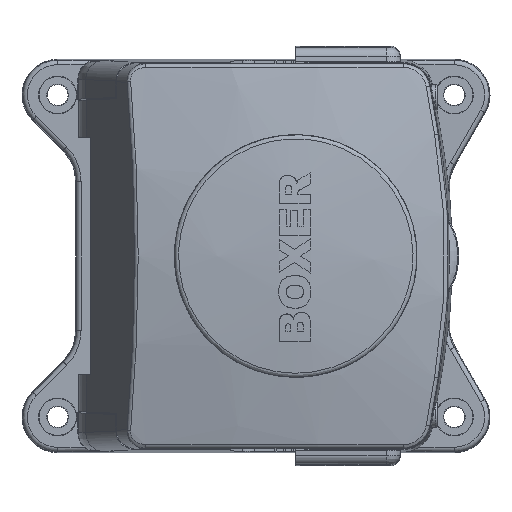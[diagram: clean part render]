
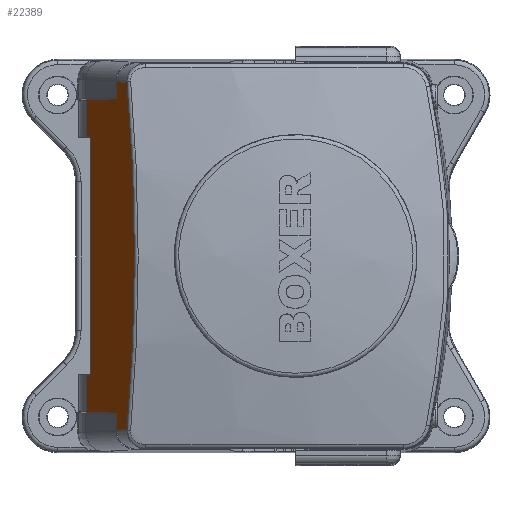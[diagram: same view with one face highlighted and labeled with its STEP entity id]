
A CAD part, left-side view. The second image highlights one B-rep face of the part: STEP entity #22389.
In plain terms, the highlighted planar face has unit normal (-0.391, 0.92, 0).
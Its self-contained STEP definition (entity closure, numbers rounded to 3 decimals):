
#1494 = DIRECTION ( 'NONE',  ( 0.92, 0.391, 0. ) ) ;
#2241 = EDGE_CURVE ( 'NONE', #4768, #6985, #79945, .T. ) ;
#2742 = CARTESIAN_POINT ( 'NONE',  ( 6.357, 44.904, 25.5 ) ) ;
#2970 = VERTEX_POINT ( 'NONE', #71660 ) ;
#2981 = LINE ( 'NONE', #49398, #55907 ) ;
#3191 = EDGE_CURVE ( 'NONE', #2970, #8357, #63870, .T. ) ;
#4282 = CARTESIAN_POINT ( 'NONE',  ( 6.357, 44.904, -33.439 ) ) ;
#4768 = VERTEX_POINT ( 'NONE', #42345 ) ;
#4786 = CARTESIAN_POINT ( 'NONE',  ( -8.939, 38.398, -33.706 ) ) ;
#4949 = EDGE_LOOP ( 'NONE', ( #69600, #66788, #13513, #34369, #17460, #9901, #22074, #58926, #57290, #18475, #63132, #65567 ) ) ;
#6328 = VECTOR ( 'NONE', #39302, 1000. ) ;
#6985 = VERTEX_POINT ( 'NONE', #82556 ) ;
#7312 = LINE ( 'NONE', #35479, #42877 ) ;
#8357 = VERTEX_POINT ( 'NONE', #32264 ) ;
#8372 = VERTEX_POINT ( 'NONE', #58163 ) ;
#8923 = CARTESIAN_POINT ( 'NONE',  ( 3.892, 43.856, -29.788 ) ) ;
#9901 = ORIENTED_EDGE ( 'NONE', *, *, #2241, .F. ) ;
#13186 = EDGE_CURVE ( 'NONE', #53746, #42174, #78942, .T. ) ;
#13513 = ORIENTED_EDGE ( 'NONE', *, *, #51220, .F. ) ;
#14410 = DIRECTION ( 'NONE',  ( 0.391, -0.92, 0. ) ) ;
#16340 = VECTOR ( 'NONE', #29532, 1000. ) ;
#17460 = ORIENTED_EDGE ( 'NONE', *, *, #76230, .T. ) ;
#18279 = DIRECTION ( 'NONE',  ( 0.92, 0.391, -0.016 ) ) ;
#18475 = ORIENTED_EDGE ( 'NONE', *, *, #81552, .F. ) ;
#19059 = CARTESIAN_POINT ( 'NONE',  ( -8.85, 38.436, 33.704 ) ) ;
#19159 = VECTOR ( 'NONE', #39434, 1000. ) ;
#20264 = LINE ( 'NONE', #68097, #46301 ) ;
#20512 = CARTESIAN_POINT ( 'NONE',  ( 6.357, 44.904, -25.5 ) ) ;
#20988 = VERTEX_POINT ( 'NONE', #52209 ) ;
#22074 = ORIENTED_EDGE ( 'NONE', *, *, #66041, .T. ) ;
#22389 = ADVANCED_FACE ( 'NONE', ( #75627 ), #42126, .F. ) ;
#23706 = VECTOR ( 'NONE', #68527, 1000. ) ;
#25020 = CARTESIAN_POINT ( 'NONE',  ( -8.791, 38.461, -37.328 ) ) ;
#27702 = LINE ( 'NONE', #54891, #58451 ) ;
#29532 = DIRECTION ( 'NONE',  ( 0., 0., 1. ) ) ;
#32264 = CARTESIAN_POINT ( 'NONE',  ( 3.892, 43.856, 25.5 ) ) ;
#32736 = CARTESIAN_POINT ( 'NONE',  ( 6.357, 44.904, -25.5 ) ) ;
#34182 = DIRECTION ( 'NONE',  ( 0., 0., 1. ) ) ;
#34369 = ORIENTED_EDGE ( 'NONE', *, *, #13186, .T. ) ;
#34609 = EDGE_CURVE ( 'NONE', #20988, #83112, #73796, .T. ) ;
#34846 = DIRECTION ( 'NONE',  ( 0.92, 0.391, 0.016 ) ) ;
#34959 = VECTOR ( 'NONE', #73085, 1000. ) ;
#35479 = CARTESIAN_POINT ( 'NONE',  ( -8.939, 38.398, 33.706 ) ) ;
#39302 = DIRECTION ( 'NONE',  ( -0.92, -0.391, 0. ) ) ;
#39434 = DIRECTION ( 'NONE',  ( 0., 0., -1. ) ) ;
#39562 = CARTESIAN_POINT ( 'NONE',  ( -14.251, 36.139, 37.232 ) ) ;
#40337 = CARTESIAN_POINT ( 'NONE',  ( -8.85, 38.436, -33.704 ) ) ;
#40859 = AXIS2_PLACEMENT_3D ( 'NONE', #70239, #14410, #1494 ) ;
#41283 = CARTESIAN_POINT ( 'NONE',  ( -8.85, 38.436, -33.3 ) ) ;
#42043 = EDGE_CURVE ( 'NONE', #56882, #8372, #2981, .T. ) ;
#42126 = PLANE ( 'NONE',  #40859 ) ;
#42174 = VERTEX_POINT ( 'NONE', #40337 ) ;
#42345 = CARTESIAN_POINT ( 'NONE',  ( -14.251, 36.139, -37.232 ) ) ;
#42877 = VECTOR ( 'NONE', #62690, 1000. ) ;
#46301 = VECTOR ( 'NONE', #34182, 1000. ) ;
#48363 = LINE ( 'NONE', #41283, #23706 ) ;
#49398 = CARTESIAN_POINT ( 'NONE',  ( -8.85, 38.436, 33.3 ) ) ;
#51220 = EDGE_CURVE ( 'NONE', #53746, #80965, #20264, .T. ) ;
#51762 = LINE ( 'NONE', #73660, #6328 ) ;
#52209 = CARTESIAN_POINT ( 'NONE',  ( 6.357, 44.904, 33.439 ) ) ;
#53746 = VERTEX_POINT ( 'NONE', #4282 ) ;
#54891 = CARTESIAN_POINT ( 'NONE',  ( -8.791, 38.461, 37.328 ) ) ;
#55907 = VECTOR ( 'NONE', #59535, 1000. ) ;
#56662 = DIRECTION ( 'NONE',  ( -0.391, 0.92, 0. ) ) ;
#56882 = VERTEX_POINT ( 'NONE', #19059 ) ;
#57290 = ORIENTED_EDGE ( 'NONE', *, *, #42043, .F. ) ;
#58163 = CARTESIAN_POINT ( 'NONE',  ( -8.85, 38.436, 37.327 ) ) ;
#58451 = VECTOR ( 'NONE', #34846, 1000. ) ;
#58926 = ORIENTED_EDGE ( 'NONE', *, *, #72687, .T. ) ;
#59535 = DIRECTION ( 'NONE',  ( 0., 0., 1. ) ) ;
#61293 = CARTESIAN_POINT ( 'NONE',  ( 6.357, 44.904, 49.851 ) ) ;
#61814 = VECTOR ( 'NONE', #18279, 1000. ) ;
#62690 = DIRECTION ( 'NONE',  ( -0.92, -0.391, 0.016 ) ) ;
#63132 = ORIENTED_EDGE ( 'NONE', *, *, #34609, .T. ) ;
#63870 = LINE ( 'NONE', #8923, #16340 ) ;
#64655 = VECTOR ( 'NONE', #75131, 1000. ) ;
#65567 = ORIENTED_EDGE ( 'NONE', *, *, #65816, .T. ) ;
#65816 = EDGE_CURVE ( 'NONE', #83112, #8357, #51762, .T. ) ;
#66041 = EDGE_CURVE ( 'NONE', #4768, #78571, #77751, .T. ) ;
#66788 = ORIENTED_EDGE ( 'NONE', *, *, #85477, .F. ) ;
#68097 = CARTESIAN_POINT ( 'NONE',  ( 6.357, 44.904, -49.851 ) ) ;
#68527 = DIRECTION ( 'NONE',  ( 0., 0., -1. ) ) ;
#69600 = ORIENTED_EDGE ( 'NONE', *, *, #3191, .F. ) ;
#70239 = CARTESIAN_POINT ( 'NONE',  ( -8.7, 38.5, 49.851 ) ) ;
#71660 = CARTESIAN_POINT ( 'NONE',  ( 3.892, 43.856, -25.5 ) ) ;
#72687 = EDGE_CURVE ( 'NONE', #78571, #8372, #27702, .T. ) ;
#73085 = DIRECTION ( 'NONE',  ( -0.92, -0.391, -0.016 ) ) ;
#73660 = CARTESIAN_POINT ( 'NONE',  ( 6.357, 44.904, 25.5 ) ) ;
#73796 = LINE ( 'NONE', #61293, #19159 ) ;
#75131 = DIRECTION ( 'NONE',  ( -0.92, -0.391, 0. ) ) ;
#75627 = FACE_OUTER_BOUND ( 'NONE', #4949, .T. ) ;
#76230 = EDGE_CURVE ( 'NONE', #42174, #6985, #48363, .T. ) ;
#77751 = CIRCLE ( 'NONE', #84895, 171.062 ) ;
#78571 = VERTEX_POINT ( 'NONE', #39562 ) ;
#78942 = LINE ( 'NONE', #4786, #34959 ) ;
#79945 = LINE ( 'NONE', #25020, #61814 ) ;
#80965 = VERTEX_POINT ( 'NONE', #20512 ) ;
#81401 = LINE ( 'NONE', #32736, #64655 ) ;
#81552 = EDGE_CURVE ( 'NONE', #20988, #56882, #7312, .T. ) ;
#82556 = CARTESIAN_POINT ( 'NONE',  ( -8.85, 38.436, -37.327 ) ) ;
#83048 = DIRECTION ( 'NONE',  ( 0.92, 0.391, 0. ) ) ;
#83112 = VERTEX_POINT ( 'NONE', #2742 ) ;
#84349 = CARTESIAN_POINT ( 'NONE',  ( 139.39, 101.488, 0. ) ) ;
#84895 = AXIS2_PLACEMENT_3D ( 'NONE', #84349, #56662, #83048 ) ;
#85477 = EDGE_CURVE ( 'NONE', #80965, #2970, #81401, .T. ) ;
